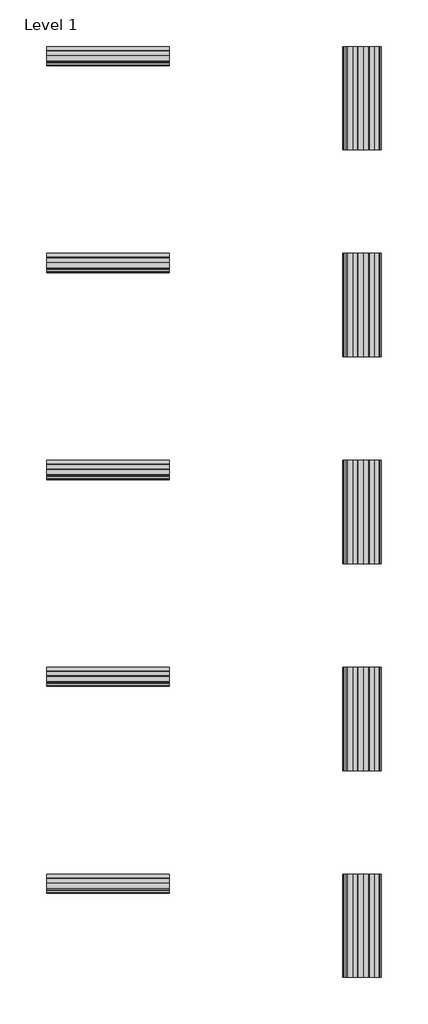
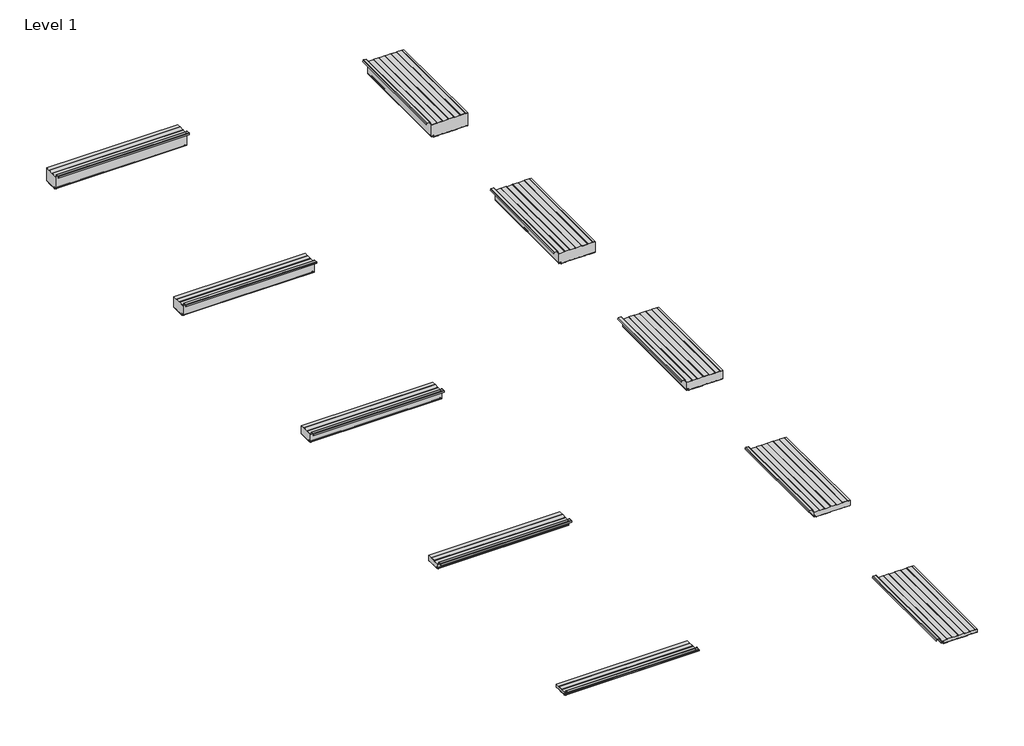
# One storey, incomplete: 10 plates.
"""IFC4 building model written with IfcOpenShell, lengths in millimetres."""

from ifc_helpers import new_model, si_unit, origin, place, context, project, spatial, transform, mapped, element, save
from components import hz_1_5_inch_3f18da90, hz_2_5_inch_6ec0f008, hz_4_inch_46bc6f41, hz_5_inch_57ac582f, hz_6_inch_f190b957, vt_1_5_inch_c299e191, vt_2_5_inch_222ce7d2, vt_4_inch_e9e6d7b6, vt_5_inch_8c37b09e, vt_6_inch_240a4d56

model = new_model("IFC4")

# Units and contexts
model_context = context("Model", 3, world=origin())
ifc_project = project(units=[si_unit("LENGTHUNIT", "METRE", prefix="MILLI")], contexts=[model_context])

# Site, building, storey
site = spatial("IfcSite", under=ifc_project)
building = spatial("IfcBuilding", under=site)
storey = spatial("IfcBuildingStorey", under=building, Name="Level 1", Elevation=4000.0)

# Plates
placement = place(None, origin())
hz_1_5_inch_shape = hz_1_5_inch_3f18da90(model_context)
element("IfcPlate", 1, ObjectType="AWIP_R18_CP_HR3_Hz_Roof Panel : Hz_1.5 Inch", at=placement, inside=storey, context=model_context, shape_type="MappedRepresentation", body=[
    mapped(hz_1_5_inch_shape, transform((-8454.8208327, 4582.6207172, 0.0), x_axis=(1.0, 0.0, 0.0), y_axis=(0.0, 0.0, -1.0), z_axis=(0.0, 1.0, 0.0))),
])
hz_2_5_inch_shape = hz_2_5_inch_6ec0f008(model_context)
element("IfcPlate", 2, ObjectType="AWIP_R18_CP_HR3_Hz_Roof Panel : Hz_2.5 Inch", at=placement, inside=storey, context=model_context, shape_type="MappedRepresentation", body=[
    mapped(hz_2_5_inch_shape, transform((-8454.8208327, 7021.0207172, 0.0), x_axis=(1.0, 0.0, 0.0), y_axis=(0.0, 0.0, -1.0), z_axis=(0.0, 1.0, 0.0))),
])
hz_4_inch_shape = hz_4_inch_46bc6f41(model_context)
element("IfcPlate", 3, ObjectType="AWIP_R18_CP_HR3_Hz_Roof Panel : Hz_4 Inch", at=placement, inside=storey, context=model_context, shape_type="MappedRepresentation", body=[
    mapped(hz_4_inch_shape, transform((-8454.8208327, 9459.4207172, 0.0), x_axis=(1.0, 0.0, 0.0), y_axis=(0.0, 0.0, -1.0), z_axis=(0.0, 1.0, 0.0))),
])
hz_5_inch_shape = hz_5_inch_57ac582f(model_context)
element("IfcPlate", 4, ObjectType="AWIP_R18_CP_HR3_Hz_Roof Panel : Hz_5 Inch", at=placement, inside=storey, context=model_context, shape_type="MappedRepresentation", body=[
    mapped(hz_5_inch_shape, transform((-8454.8208327, 11897.8207172, 0.0), x_axis=(1.0, 0.0, 0.0), y_axis=(0.0, 0.0, -1.0), z_axis=(0.0, 1.0, 0.0))),
])
hz_6_inch_shape = hz_6_inch_f190b957(model_context)
element("IfcPlate", 5, ObjectType="AWIP_R18_CP_HR3_Hz_Roof Panel : Hz_6 Inch", at=placement, inside=storey, context=model_context, shape_type="MappedRepresentation", body=[
    mapped(hz_6_inch_shape, transform((-8454.8208327, 14336.2207172, 0.0), x_axis=(1.0, 0.0, 0.0), y_axis=(0.0, 0.0, -1.0), z_axis=(0.0, 1.0, 0.0))),
])
vt_1_5_inch_shape = vt_1_5_inch_c299e191(model_context)
element("IfcPlate", 6, ObjectType="AWIP_R18_CP_HR3_Vt_Roof Panel : Vt_1.5 Inch", at=placement, inside=storey, context=model_context, shape_type="MappedRepresentation", body=[
    mapped(vt_1_5_inch_shape, transform((-5447.0371226, 3566.6207172, 0.0), x_axis=(1.0, 0.0, 0.0), y_axis=(0.0, 0.0, -1.0), z_axis=(0.0, 1.0, 0.0))),
])
vt_2_5_inch_shape = vt_2_5_inch_222ce7d2(model_context)
element("IfcPlate", 7, ObjectType="AWIP_R18_CP_HR3_Vt_Roof Panel : Vt_2.5 Inch", at=placement, inside=storey, context=model_context, shape_type="MappedRepresentation", body=[
    mapped(vt_2_5_inch_shape, transform((-5447.0371226, 6005.0207172, 0.0), x_axis=(1.0, 0.0, 0.0), y_axis=(0.0, 0.0, -1.0), z_axis=(0.0, 1.0, 0.0))),
])
vt_4_inch_shape = vt_4_inch_e9e6d7b6(model_context)
element("IfcPlate", 8, ObjectType="AWIP_R18_CP_HR3_Vt_Roof Panel : Vt_4 Inch", at=placement, inside=storey, context=model_context, shape_type="MappedRepresentation", body=[
    mapped(vt_4_inch_shape, transform((-5447.0371226, 8443.4207172, 0.0), x_axis=(1.0, 0.0, 0.0), y_axis=(0.0, 0.0, -1.0), z_axis=(0.0, 1.0, 0.0))),
])
vt_5_inch_shape = vt_5_inch_8c37b09e(model_context)
element("IfcPlate", 9, ObjectType="AWIP_R18_CP_HR3_Vt_Roof Panel : Vt_5 Inch", at=placement, inside=storey, context=model_context, shape_type="MappedRepresentation", body=[
    mapped(vt_5_inch_shape, transform((-5447.0371226, 10881.8207172, 0.0), x_axis=(1.0, 0.0, 0.0), y_axis=(0.0, 0.0, -1.0), z_axis=(0.0, 1.0, 0.0))),
])
vt_6_inch_shape = vt_6_inch_240a4d56(model_context)
element("IfcPlate", 10, ObjectType="AWIP_R18_CP_HR3_Vt_Roof Panel : Vt_6 Inch", at=placement, inside=storey, context=model_context, shape_type="MappedRepresentation", body=[
    mapped(vt_6_inch_shape, transform((-5447.0371226, 13320.2207172, 0.0), x_axis=(1.0, 0.0, 0.0), y_axis=(0.0, 0.0, -1.0), z_axis=(0.0, 1.0, 0.0))),
])

save(model, "model.ifc")
